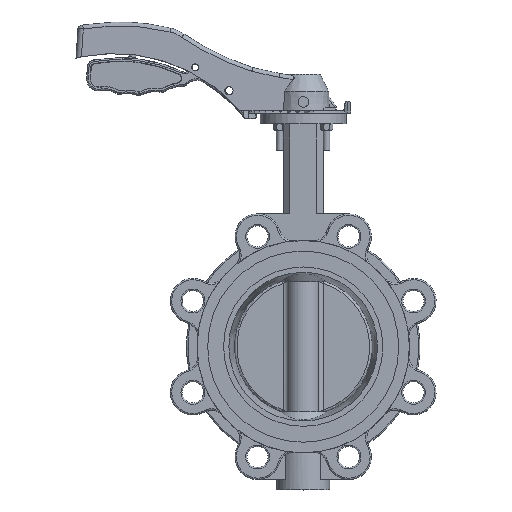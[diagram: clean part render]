
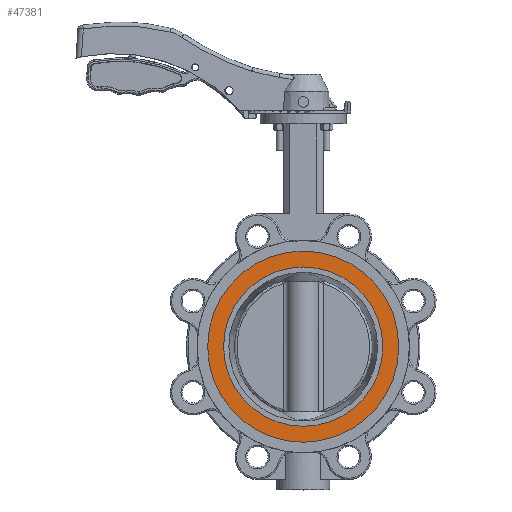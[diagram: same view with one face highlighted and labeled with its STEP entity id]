
A CAD part, top view. The second image highlights one B-rep face of the part: STEP entity #47381.
In plain terms, the highlighted planar face has unit normal (0, 0, 1).
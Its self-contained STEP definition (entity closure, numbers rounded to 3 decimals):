
#2783 = CARTESIAN_POINT ( 'NONE',  ( -53.919, -53.353, 28. ) ) ;
#7002 = CARTESIAN_POINT ( 'NONE',  ( -41.919, -53.353, 28. ) ) ;
#8102 = ORIENTED_EDGE ( 'NONE', *, *, #39842, .F. ) ;
#8288 = EDGE_LOOP ( 'NONE', ( #40749 ) ) ;
#12612 = FACE_BOUND ( 'NONE', #8288, .T. ) ;
#15009 = AXIS2_PLACEMENT_3D ( 'NONE', #18615, #40071, #17265 ) ;
#17265 = DIRECTION ( 'NONE',  ( -1., 0., 0. ) ) ;
#17469 = AXIS2_PLACEMENT_3D ( 'NONE', #7002, #34047, #39374 ) ;
#18615 = CARTESIAN_POINT ( 'NONE',  ( 18.131, -53.353, 28. ) ) ;
#24512 = CIRCLE ( 'NONE', #49293, 72.05 ) ;
#28338 = CARTESIAN_POINT ( 'NONE',  ( 18.131, -53.353, 28. ) ) ;
#28350 = EDGE_LOOP ( 'NONE', ( #8102 ) ) ;
#28773 = FACE_OUTER_BOUND ( 'NONE', #28350, .T. ) ;
#29024 = DIRECTION ( 'NONE',  ( -1., 0., 0. ) ) ;
#34047 = DIRECTION ( 'NONE',  ( 0., 0., 1. ) ) ;
#35427 = EDGE_CURVE ( 'NONE', #42580, #42580, #44160, .T. ) ;
#37351 = CARTESIAN_POINT ( 'NONE',  ( -41.919, -53.353, 28. ) ) ;
#39374 = DIRECTION ( 'NONE',  ( 1., 0., 0. ) ) ;
#39842 = EDGE_CURVE ( 'NONE', #66507, #66507, #24512, .T. ) ;
#40071 = DIRECTION ( 'NONE',  ( 0., 0., -1. ) ) ;
#40749 = ORIENTED_EDGE ( 'NONE', *, *, #35427, .T. ) ;
#42580 = VERTEX_POINT ( 'NONE', #37351 ) ;
#44160 = CIRCLE ( 'NONE', #15009, 60.05 ) ;
#47381 = ADVANCED_FACE ( 'NONE', ( #12612, #28773 ), #66113, .T. ) ;
#49293 = AXIS2_PLACEMENT_3D ( 'NONE', #28338, #50614, #29024 ) ;
#50614 = DIRECTION ( 'NONE',  ( 0., 0., -1. ) ) ;
#66113 = PLANE ( 'NONE',  #17469 ) ;
#66507 = VERTEX_POINT ( 'NONE', #2783 ) ;
